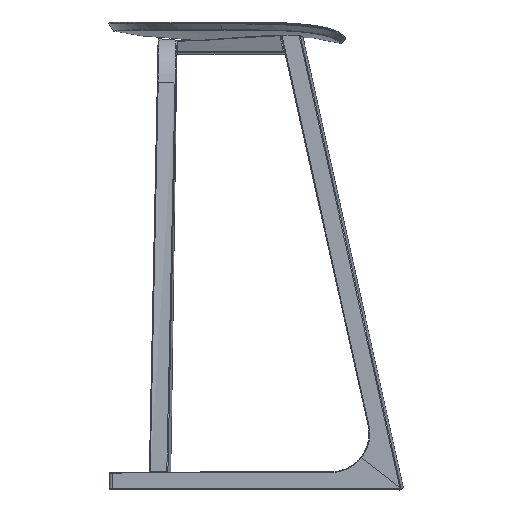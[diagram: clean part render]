
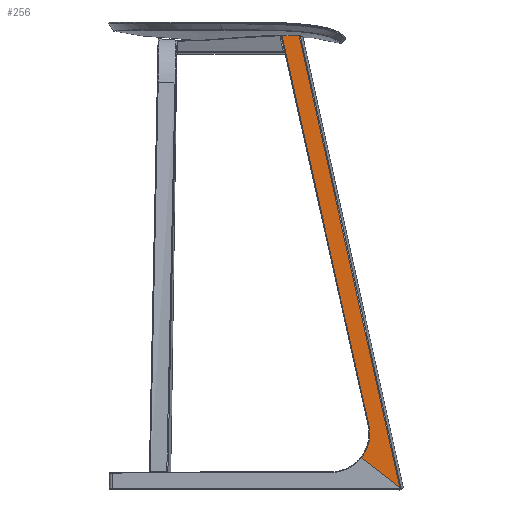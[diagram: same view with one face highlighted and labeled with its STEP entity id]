
A CAD part, left-side view. The second image highlights one B-rep face of the part: STEP entity #256.
In plain terms, the highlighted planar face has unit normal (-0.979, 0.167, 0.121).
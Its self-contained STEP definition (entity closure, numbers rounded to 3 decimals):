
#27=PLANE('',#3520);
#256=ADVANCED_FACE('',(#521),#27,.T.);
#521=FACE_OUTER_BOUND('',#786,.T.);
#786=EDGE_LOOP('',(#1616,#1617,#1618,#1619,#1620,#1621));
#1616=ORIENTED_EDGE('',*,*,#2289,.T.);
#1617=ORIENTED_EDGE('',*,*,#2286,.F.);
#1618=ORIENTED_EDGE('',*,*,#2250,.F.);
#1619=ORIENTED_EDGE('',*,*,#2252,.T.);
#1620=ORIENTED_EDGE('',*,*,#2251,.T.);
#1621=ORIENTED_EDGE('',*,*,#2280,.T.);
#2250=EDGE_CURVE('',#3147,#3148,#2911,.T.);
#2251=EDGE_CURVE('',#3149,#3146,#2912,.T.);
#2252=EDGE_CURVE('',#3147,#3149,#2913,.T.);
#2280=EDGE_CURVE('',#3146,#3162,#2714,.T.);
#2286=EDGE_CURVE('',#3148,#3163,#2720,.T.);
#2289=EDGE_CURVE('',#3162,#3163,#2920,.T.);
#2714=(
BOUNDED_CURVE()
B_SPLINE_CURVE(3,(#14585,#14586,#14587,#14588,#14589,#14590,#14591),
 .UNSPECIFIED.,.F.,.F.)
B_SPLINE_CURVE_WITH_KNOTS((4,3,4),(0.,27.814,
55.177),.UNSPECIFIED.)
CURVE()
GEOMETRIC_REPRESENTATION_ITEM()
RATIONAL_B_SPLINE_CURVE((1.,1.,1.,1.,1.,
1.,1.))
REPRESENTATION_ITEM('')
);
#2720=(
BOUNDED_CURVE()
B_SPLINE_CURVE(3,(#14648,#14649,#14650,#14651,#14652,#14653,#14654),
 .UNSPECIFIED.,.F.,.F.)
B_SPLINE_CURVE_WITH_KNOTS((4,3,4),(-0.188,1.487,1.623),
 .UNSPECIFIED.)
CURVE()
GEOMETRIC_REPRESENTATION_ITEM()
RATIONAL_B_SPLINE_CURVE((1.,1.,1.,1.,1.,1.,1.))
REPRESENTATION_ITEM('')
);
#2911=B_SPLINE_CURVE_WITH_KNOTS('',1,(#14494,#14495),.UNSPECIFIED.,.F.,
 .F.,(2,2),(1.139,749.75),.UNSPECIFIED.);
#2912=B_SPLINE_CURVE_WITH_KNOTS('',1,(#14496,#14497),.UNSPECIFIED.,.F.,
 .F.,(2,2),(1.892,649.528),.UNSPECIFIED.);
#2913=B_SPLINE_CURVE_WITH_KNOTS('',3,(#14498,#14499,#14500,#14501),
 .UNSPECIFIED.,.F.,.F.,(4,4),(1.138,29.008),
 .UNSPECIFIED.);
#2920=B_SPLINE_CURVE_WITH_KNOTS('',1,(#14661,#14662),.UNSPECIFIED.,.F.,
 .F.,(2,2),(-82.197,-3.107),.UNSPECIFIED.);
#3146=VERTEX_POINT('',#14444);
#3147=VERTEX_POINT('',#14445);
#3148=VERTEX_POINT('',#14446);
#3149=VERTEX_POINT('',#14447);
#3162=VERTEX_POINT('',#14460);
#3163=VERTEX_POINT('',#14461);
#3520=AXIS2_PLACEMENT_3D('',#14102,#3547,$);
#3547=DIRECTION('',(-0.979,0.167,0.121));
#14102=CARTESIAN_POINT('',(863.812,-26714.924,496.554));
#14444=CARTESIAN_POINT('',(766.55,-26827.237,-136.396));
#14445=CARTESIAN_POINT('',(862.646,-26715.372,487.721));
#14446=CARTESIAN_POINT('',(746.104,-26876.422,-234.012));
#14447=CARTESIAN_POINT('',(867.373,-26687.909,487.989));
#14460=CARTESIAN_POINT('',(762.196,-26815.32,-188.213));
#14461=CARTESIAN_POINT('',(745.895,-26876.361,-235.79));
#14494=CARTESIAN_POINT('',(862.646,-26715.372,487.721));
#14495=CARTESIAN_POINT('',(746.104,-26876.422,-234.012));
#14496=CARTESIAN_POINT('',(867.373,-26687.909,487.989));
#14497=CARTESIAN_POINT('',(766.55,-26827.237,-136.396));
#14498=CARTESIAN_POINT('',(862.646,-26715.372,487.721));
#14499=CARTESIAN_POINT('',(864.244,-26706.225,488.002));
#14500=CARTESIAN_POINT('',(865.818,-26697.068,488.077));
#14501=CARTESIAN_POINT('',(867.373,-26687.909,487.989));
#14585=CARTESIAN_POINT('',(766.55,-26827.237,-136.396));
#14586=CARTESIAN_POINT('',(765.105,-26829.239,-145.332));
#14587=CARTESIAN_POINT('',(763.952,-26829.177,-154.773));
#14588=CARTESIAN_POINT('',(763.202,-26827.072,-163.77));
#14589=CARTESIAN_POINT('',(762.464,-26825.001,-172.621));
#14590=CARTESIAN_POINT('',(762.117,-26820.953,-181.042));
#14591=CARTESIAN_POINT('',(762.196,-26815.32,-188.213));
#14648=CARTESIAN_POINT('',(746.104,-26876.422,-234.012));
#14649=CARTESIAN_POINT('',(746.017,-26876.543,-234.55));
#14650=CARTESIAN_POINT('',(745.948,-26876.534,-235.12));
#14651=CARTESIAN_POINT('',(745.905,-26876.397,-235.66));
#14652=CARTESIAN_POINT('',(745.901,-26876.385,-235.703));
#14653=CARTESIAN_POINT('',(745.898,-26876.373,-235.747));
#14654=CARTESIAN_POINT('',(745.895,-26876.361,-235.79));
#14661=CARTESIAN_POINT('',(762.196,-26815.32,-188.213));
#14662=CARTESIAN_POINT('',(745.895,-26876.361,-235.79));
